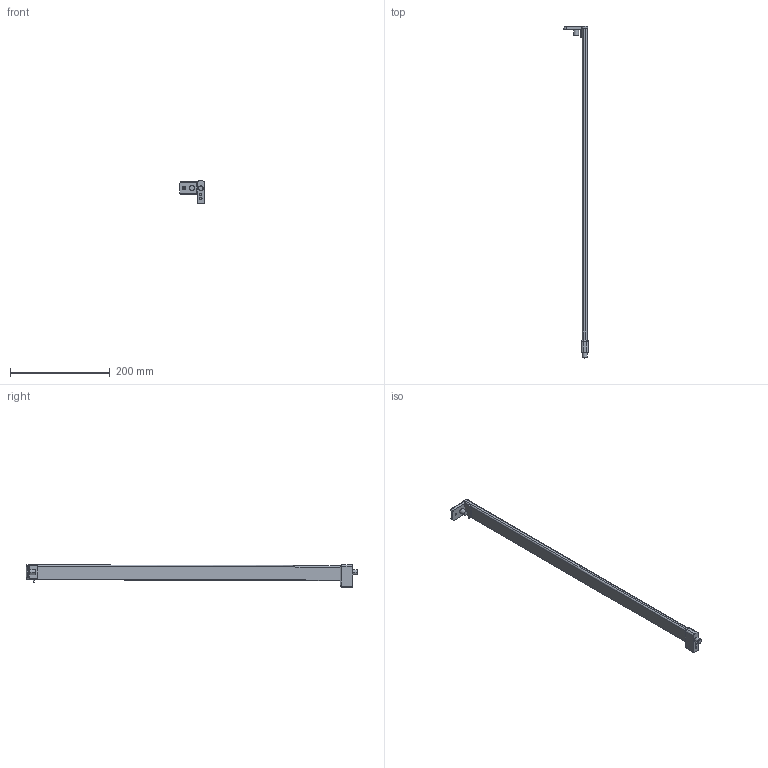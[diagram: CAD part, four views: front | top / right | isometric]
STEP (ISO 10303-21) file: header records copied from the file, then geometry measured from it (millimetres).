
FILE_DESCRIPTION (( 'STEP AP214' ), '1' );
FILE_NAME ('_2S_REL_7606_NL650_RE.step', '2010-07-01T14:41:48', ( 'grass' ), ( '' ), 'SwSTEP 2.0', 'SolidWorks 2009', '' );
FILE_SCHEMA (( 'AUTOMOTIVE_DESIGN' ));
Length unit declared in the file: millimetre
Products named in the file (1): _2S_REL_7606_NL650_RE
Bounding box: 49.25 x 665.5 x 45.4 mm (x, y, z)
Volume: 216201.4 mm3; surface area: 56959.1 mm2
Topology: 2 solids, 2 shells, 120 faces, 292 edges, 178 vertices
Faces by surface type: cylinder 58, plane 40, bspline 10, torus 6, cone 4, sphere 2
Entity records: 4659 total; most frequent: CARTESIAN_POINT 1934, ORIENTED_EDGE 580, DIRECTION 546, EDGE_CURVE 290, AXIS2_PLACEMENT_3D 203, VERTEX_POINT 178, VECTOR 140, LINE 140
